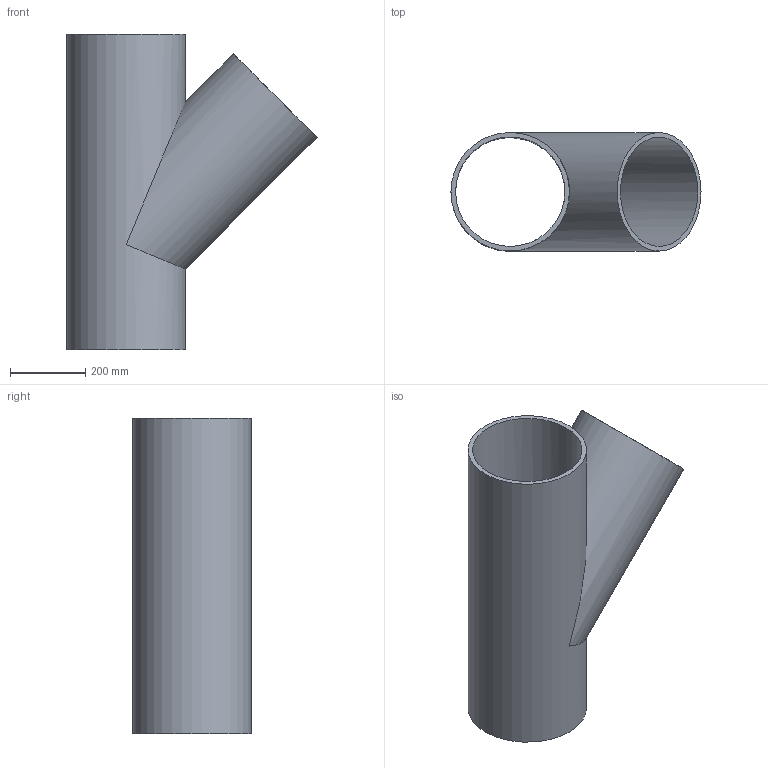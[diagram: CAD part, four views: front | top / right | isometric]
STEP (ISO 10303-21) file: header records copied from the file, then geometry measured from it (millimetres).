
FILE_DESCRIPTION(/* description */ (''),/* implementation_level */ '2;1');
FILE_NAME(/* name */ 'C:\Planerdaten\Export PLA\PRO_101557\stp\372148.stp',/* time_stamp */ '2021-09-30T15:10:26+02:00',/* author */ ('JANAN'),/* organization */ (''),/* preprocessor_version */ 'ST-DEVELOPER v16.13',/* originating_system */ 'Autodesk Inventor 2018',/* authorisation */ '');
FILE_SCHEMA (('AUTOMOTIVE_DESIGN { 1 0 10303 214 3 1 1 }'));
Length unit declared in the file: millimetre
Products named in the file (1): tmp5D1D.tmp
Bounding box: 664.85 x 315 x 840 mm (x, y, z)
Volume: 13082201.1 mm3; surface area: 2178878.1 mm2
Topology: 1 solids, 1 shells, 7 faces, 19 edges, 14 vertices
Faces by surface type: cylinder 4, plane 3
Full cylindrical faces by diameter (mm): 290.6 x2, 315 x2
Entity records: 228 total; most frequent: DIRECTION 36, CARTESIAN_POINT 28, ORIENTED_EDGE 20, AXIS2_PLACEMENT_3D 18, EDGE_LOOP 16, VERTEX_POINT 10, EDGE_CURVE 10, FACE_BOUND 9
